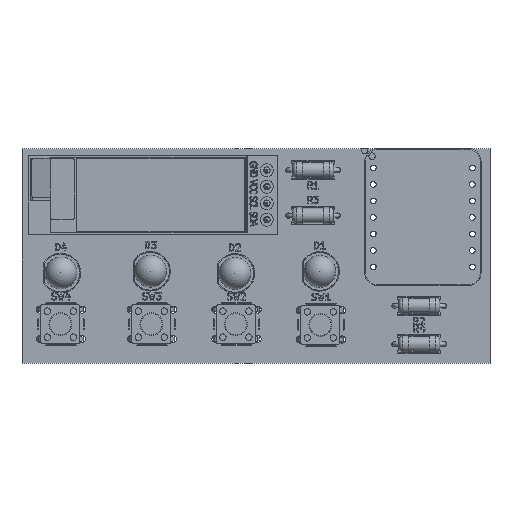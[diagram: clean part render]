
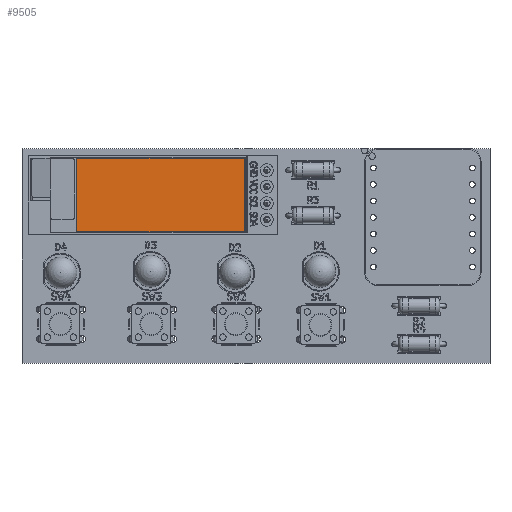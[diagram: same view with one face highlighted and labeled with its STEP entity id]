
A CAD part, top view. The second image highlights one B-rep face of the part: STEP entity #9505.
In plain terms, the highlighted planar face has unit normal (0, 0, 1).
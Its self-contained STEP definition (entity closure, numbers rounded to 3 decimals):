
#9396 = VERTEX_POINT('',#9397);
#9397 = CARTESIAN_POINT('',(11.7,5.65,2.51));
#9403 = EDGE_CURVE('',#9404,#9396,#9406,.T.);
#9404 = VERTEX_POINT('',#9405);
#9405 = CARTESIAN_POINT('',(11.7,-5.65,2.51));
#9406 = LINE('',#9407,#9408);
#9407 = CARTESIAN_POINT('',(11.7,5.65,2.51));
#9408 = VECTOR('',#9409,1.);
#9409 = DIRECTION('',(0.,1.,0.));
#9434 = EDGE_CURVE('',#9435,#9404,#9437,.T.);
#9435 = VERTEX_POINT('',#9436);
#9436 = CARTESIAN_POINT('',(-14.1,-5.65,2.51));
#9437 = LINE('',#9438,#9439);
#9438 = CARTESIAN_POINT('',(11.7,-5.65,2.51));
#9439 = VECTOR('',#9440,1.);
#9440 = DIRECTION('',(1.,0.,0.));
#9465 = EDGE_CURVE('',#9466,#9435,#9468,.T.);
#9466 = VERTEX_POINT('',#9467);
#9467 = CARTESIAN_POINT('',(-14.1,5.65,2.51));
#9468 = LINE('',#9469,#9470);
#9469 = CARTESIAN_POINT('',(-14.1,-5.65,2.51));
#9470 = VECTOR('',#9471,1.);
#9471 = DIRECTION('',(0.,-1.,0.));
#9494 = EDGE_CURVE('',#9396,#9466,#9495,.T.);
#9495 = LINE('',#9496,#9497);
#9496 = CARTESIAN_POINT('',(-14.1,5.65,2.51));
#9497 = VECTOR('',#9498,1.);
#9498 = DIRECTION('',(-1.,0.,0.));
#9505 = ADVANCED_FACE('',(#9506),#9512,.T.);
#9506 = FACE_BOUND('',#9507,.T.);
#9507 = EDGE_LOOP('',(#9508,#9509,#9510,#9511));
#9508 = ORIENTED_EDGE('',*,*,#9494,.T.);
#9509 = ORIENTED_EDGE('',*,*,#9465,.T.);
#9510 = ORIENTED_EDGE('',*,*,#9434,.T.);
#9511 = ORIENTED_EDGE('',*,*,#9403,.T.);
#9512 = PLANE('',#9513);
#9513 = AXIS2_PLACEMENT_3D('',#9514,#9515,#9516);
#9514 = CARTESIAN_POINT('',(-1.2,0.,2.51));
#9515 = DIRECTION('',(0.,0.,1.));
#9516 = DIRECTION('',(1.,0.,-0.));
